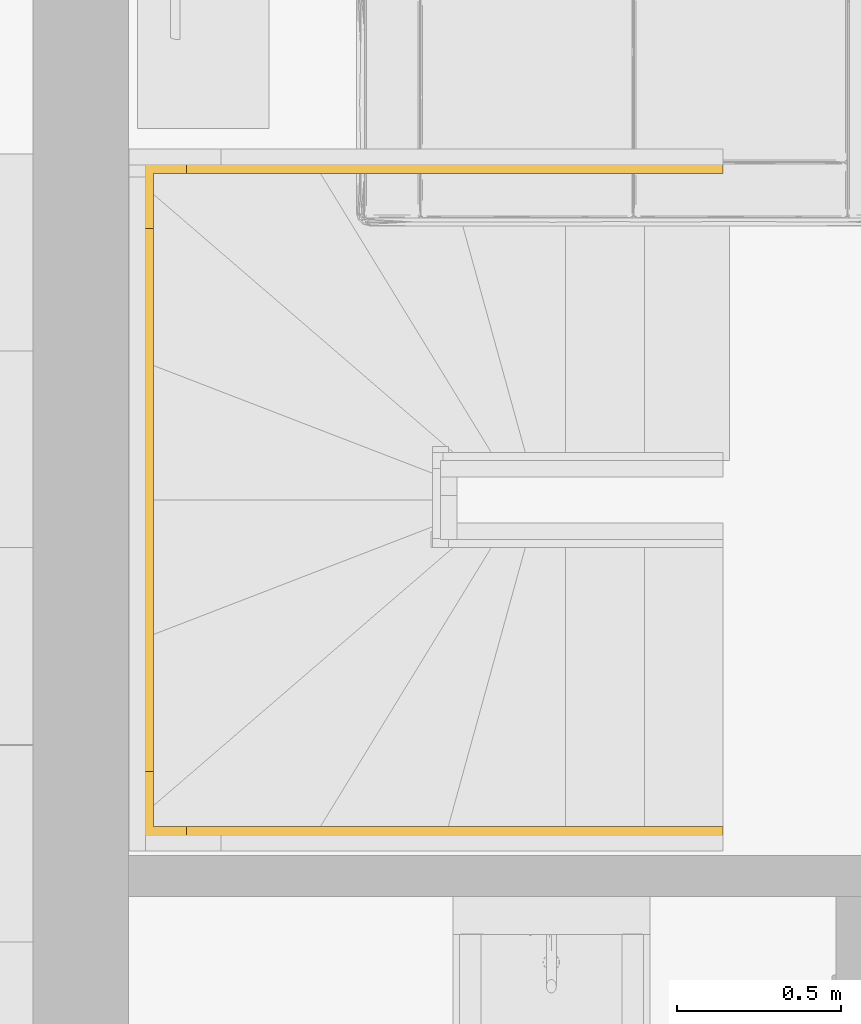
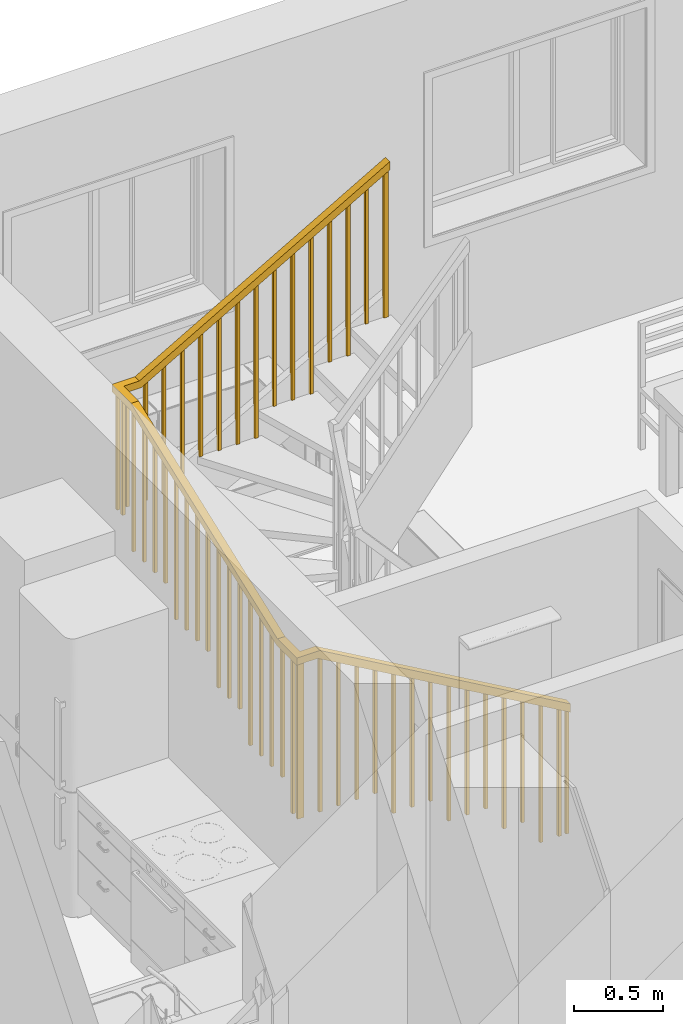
# One storey, part 28 of 65: 1 railing, 1 element without a shape of its own.
"""IFC2X3 building model written with IfcOpenShell, lengths in millimetres."""

from ifc_helpers import new_model, entity, si_unit, converted_unit, direction, frame, origin, place, context, subcontext, project, spatial, faceted_brep, material, type_object, element, aggregate, save


model = new_model("IFC2X3")

# Units and contexts
model_context = context("Model", 3, precision=0.01, world=origin(), true_north=direction((0.0, 1.0)))
body_context = subcontext(model_context, "Body", "Model", "MODEL_VIEW")
ifc_project = project(units=[si_unit("LENGTHUNIT", "METRE", prefix="MILLI"), si_unit("AREAUNIT", "SQUARE_METRE"), si_unit("VOLUMEUNIT", "CUBIC_METRE"), converted_unit("PLANEANGLEUNIT", "DEGREE", entity("IfcPlaneAngleMeasure", 0.017453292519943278), si_unit("PLANEANGLEUNIT", "RADIAN"), dimensions=[0, 0, 0, 0, 0, 0, 0])], contexts=[model_context])

# Site, building, storey
site_placement = place(None, origin())
site = spatial("IfcSite", under=ifc_project, at=site_placement, Name="Default", CompositionType="ELEMENT")
building_placement = place(site_placement, origin())
building = spatial("IfcBuilding", under=site, at=building_placement, CompositionType="ELEMENT")
storey_placement = place(building_placement, origin())
storey = spatial("IfcBuildingStorey", under=building, at=storey_placement, Name="Et. 1", CompositionType="ELEMENT", Elevation=0.0)

# Stair, railing
type_product = type_object("IfcTypeProduct", Name="Assembled Stair:Tretrapp - Åpne trinn m/ vanger")
stair_placement = place(storey_placement, origin())
stair = element("IfcStair", 1, at=stair_placement, inside=storey, type_object=type_product, Name="Assembled Stair:Stair", ShapeType="NOTDEFINED")
ifc_material = material(Name="Metall - Malt - MØRK GRÅ MATT")
railing_type = type_object("IfcRailingType", Name="Railing:900mm", PredefinedType="NOTDEFINED")
railing_placement = place(stair_placement, frame((22350.049458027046, 12256.845077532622, 178.73333333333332)))
railing = element("IfcRailing", 2, at=railing_placement, type_object=railing_type, material=ifc_material, Name="Railing:900mm", PredefinedType="NOTDEFINED", context=body_context, shape_type="Brep", body=[
    faceted_brep([(1755.0, 2054.199999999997, 3334.94499683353), (1755.0, 2074.1999999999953, 3334.94499683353), (1755.0, 2074.1999999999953, 2323.5333333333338), (1755.0, 2054.199999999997, 2323.5333333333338), (1775.0, 2074.1999999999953, 3346.4569725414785), (1775.0, 2074.1999999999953, 2323.5333333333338), (1775.0, 2054.199999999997, 3346.4569725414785), (1775.0, 2054.199999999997, 2323.5333333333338)], [[[0, 1, 2, 3]], [[1, 4, 5, 2]], [[4, 6, 7, 5]], [[3, 7, 6, 0]], [[0, 6, 4, 1]], [[2, 5, 7, 3]]]),
    faceted_brep([(1635.0, 2054.199999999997, 3265.8731425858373), (1635.0, 2074.1999999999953, 3265.8731425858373), (1635.0, 2074.1999999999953, 2323.5333333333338), (1635.0, 2054.199999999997, 2323.5333333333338), (1655.0, 2074.1999999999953, 3277.385118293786), (1655.0, 2074.1999999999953, 2323.5333333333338), (1655.0, 2054.199999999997, 3277.385118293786), (1655.0, 2054.199999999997, 2323.5333333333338)], [[[0, 1, 2, 3]], [[1, 4, 5, 2]], [[4, 6, 7, 5]], [[3, 7, 6, 0]], [[0, 6, 4, 1]], [[2, 5, 7, 3]]]),
    faceted_brep([(1515.0, 2054.199999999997, 3196.801288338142), (1515.0, 2074.1999999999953, 3196.8012883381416), (1515.0, 2074.1999999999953, 2144.8), (1515.0, 2054.199999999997, 2144.8000000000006), (1535.0, 2074.1999999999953, 3208.313264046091), (1535.0, 2074.1999999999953, 2144.8), (1535.0, 2054.199999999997, 3208.313264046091), (1535.0, 2054.199999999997, 2144.8)], [[[0, 1, 2, 3]], [[1, 4, 5, 2]], [[4, 6, 7, 5]], [[3, 7, 6, 0]], [[0, 6, 4, 1]], [[2, 5, 7, 3]]]),
    faceted_brep([(1395.0, 2054.199999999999, 3127.72943409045), (1395.0, 2074.199999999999, 3127.72943409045), (1395.0, 2074.199999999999, 2144.8000000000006), (1395.0, 2054.199999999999, 2144.8000000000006), (1415.0, 2074.199999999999, 3139.241409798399), (1415.0, 2074.199999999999, 2144.8000000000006), (1415.0, 2054.199999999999, 3139.241409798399), (1415.0, 2054.199999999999, 2144.8000000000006)], [[[0, 1, 2, 3]], [[1, 4, 5, 2]], [[4, 6, 7, 5]], [[3, 7, 6, 0]], [[0, 6, 4, 1]], [[2, 5, 7, 3]]]),
    faceted_brep([(1275.0, 2054.199999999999, 3058.6575798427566), (1275.0, 2074.199999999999, 3058.6575798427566), (1275.0, 2074.199999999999, 1966.0666666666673), (1275.0, 2054.199999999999, 1966.0666666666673), (1295.0, 2074.199999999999, 3070.169555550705), (1295.0, 2074.199999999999, 1966.0666666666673), (1295.0, 2054.199999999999, 3070.169555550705), (1295.0, 2054.199999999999, 1966.0666666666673)], [[[0, 1, 2, 3]], [[1, 4, 5, 2]], [[4, 6, 7, 5]], [[3, 7, 6, 0]], [[0, 6, 4, 1]], [[2, 5, 7, 3]]]),
    faceted_brep([(1155.0, 2054.199999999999, 2989.585725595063), (1155.0, 2074.199999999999, 2989.585725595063), (1155.0, 2074.199999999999, 1966.0666666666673), (1155.0, 2054.199999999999, 1966.0666666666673), (1175.0, 2074.199999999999, 3001.097701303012), (1175.0, 2074.199999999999, 1966.0666666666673), (1175.0, 2054.199999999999, 3001.097701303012), (1175.0, 2054.199999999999, 1966.0666666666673)], [[[0, 1, 2, 3]], [[1, 4, 5, 2]], [[4, 6, 7, 5]], [[3, 7, 6, 0]], [[0, 6, 4, 1]], [[2, 5, 7, 3]]]),
    faceted_brep([(1035.0, 2054.199999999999, 2920.5138713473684), (1035.0, 2074.199999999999, 2920.5138713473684), (1035.0, 2074.199999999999, 1966.0666666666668), (1035.0, 2054.199999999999, 1966.0666666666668), (1055.0, 2074.199999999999, 2932.0258470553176), (1055.0, 2074.199999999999, 1966.0666666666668), (1055.0, 2054.199999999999, 2932.0258470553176), (1055.0, 2054.199999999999, 1966.0666666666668)], [[[0, 1, 2, 3]], [[1, 4, 5, 2]], [[4, 6, 7, 5]], [[3, 7, 6, 0]], [[0, 6, 4, 1]], [[2, 5, 7, 3]]]),
    faceted_brep([(915.0, 2054.199999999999, 2851.4420170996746), (915.0, 2074.199999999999, 2851.4420170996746), (915.0, 2074.199999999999, 1787.3333333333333), (915.0, 2054.199999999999, 1787.3333333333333), (935.0, 2074.199999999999, 2862.953992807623), (935.0, 2074.199999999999, 1787.3333333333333), (935.0, 2054.199999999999, 2862.953992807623), (935.0, 2054.199999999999, 1787.3333333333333)], [[[0, 1, 2, 3]], [[1, 4, 5, 2]], [[4, 6, 7, 5]], [[3, 7, 6, 0]], [[0, 6, 4, 1]], [[2, 5, 7, 3]]]),
    faceted_brep([(795.0, 2054.2000000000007, 2782.3701628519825), (795.0, 2074.2000000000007, 2782.3701628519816), (795.0, 2074.2000000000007, 1787.333333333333), (795.0, 2054.2000000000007, 1787.333333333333), (815.0, 2074.2000000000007, 2793.882138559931), (815.0, 2074.2000000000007, 1787.333333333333), (815.0, 2054.2000000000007, 2793.882138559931), (815.0, 2054.2000000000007, 1787.333333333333)], [[[0, 1, 2, 3]], [[1, 4, 5, 2]], [[4, 6, 7, 5]], [[3, 7, 6, 0]], [[0, 6, 4, 1]], [[2, 5, 7, 3]]]),
    faceted_brep([(675.0, 2054.2000000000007, 2713.2983086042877), (675.0, 2074.2000000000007, 2713.2983086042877), (675.0, 2074.2000000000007, 1787.333333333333), (675.0, 2054.2000000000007, 1787.333333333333), (695.0, 2074.2000000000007, 2724.810284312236), (695.0, 2074.2000000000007, 1787.333333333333), (695.0, 2054.2000000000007, 2724.810284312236), (695.0, 2054.2000000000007, 1787.333333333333)], [[[0, 1, 2, 3]], [[1, 4, 5, 2]], [[4, 6, 7, 5]], [[3, 7, 6, 0]], [[0, 6, 4, 1]], [[2, 5, 7, 3]]]),
    faceted_brep([(555.0, 2054.2000000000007, 2644.226454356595), (555.0, 2074.2000000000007, 2644.2264543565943), (555.0, 2074.2000000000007, 1787.3333333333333), (555.0, 2054.2000000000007, 1787.3333333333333), (575.0, 2074.2000000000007, 2655.7384300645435), (575.0, 2074.2000000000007, 1787.3333333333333), (575.0, 2054.2000000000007, 2655.7384300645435), (575.0, 2054.2000000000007, 1787.3333333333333)], [[[0, 1, 2, 3]], [[1, 4, 5, 2]], [[4, 6, 7, 5]], [[3, 7, 6, 0]], [[0, 6, 4, 1]], [[2, 5, 7, 3]]]),
    faceted_brep([(435.0, 2054.2000000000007, 2575.1546001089), (435.0, 2074.2000000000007, 2575.1546001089), (435.0, 2074.2000000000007, 1608.5999999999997), (435.0, 2054.2000000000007, 1608.5999999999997), (455.0, 2074.2000000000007, 2586.666575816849), (455.0, 2074.2000000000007, 1608.5999999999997), (455.0, 2054.2000000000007, 2586.666575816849), (455.0, 2054.2000000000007, 1608.5999999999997)], [[[0, 1, 2, 3]], [[1, 4, 5, 2]], [[4, 6, 7, 5]], [[3, 7, 6, 0]], [[0, 6, 4, 1]], [[2, 5, 7, 3]]]),
    faceted_brep([(315.0, 2054.2000000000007, 2506.082745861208), (315.0, 2074.2000000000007, 2506.0827458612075), (315.0, 2074.2000000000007, 1608.5999999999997), (315.0, 2054.2000000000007, 1608.5999999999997), (335.0, 2074.2000000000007, 2517.5947215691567), (335.0, 2074.2000000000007, 1608.5999999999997), (335.0, 2054.2000000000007, 2517.5947215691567), (335.0, 2054.2000000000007, 1608.5999999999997)], [[[0, 1, 2, 3]], [[1, 4, 5, 2]], [[4, 6, 7, 5]], [[3, 7, 6, 0]], [[0, 6, 4, 1]], [[2, 5, 7, 3]]]),
    faceted_brep([(195.0, 2054.2000000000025, 2437.0108916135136), (195.0, 2074.2000000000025, 2437.0108916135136), (195.0, 2074.2000000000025, 1608.5999999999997), (195.0, 2054.2000000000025, 1608.5999999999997), (215.0, 2074.2000000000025, 2448.522867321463), (215.0, 2074.2000000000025, 1608.5999999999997), (215.0, 2054.2000000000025, 2448.522867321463), (215.0, 2054.2000000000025, 1608.5999999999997)], [[[0, 1, 2, 3]], [[1, 4, 5, 2]], [[4, 6, 7, 5]], [[3, 7, 6, 0]], [[0, 6, 4, 1]], [[2, 5, 7, 3]]]),
    faceted_brep([(75.0, 2054.2000000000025, 2411.399065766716), (75.0, 2074.2000000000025, 2411.399065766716), (75.0, 2074.2000000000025, 1608.5999999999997), (75.0, 2054.2000000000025, 1608.5999999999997), (95.0, 2074.2000000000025, 2411.399065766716), (95.0, 2074.2000000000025, 1608.5999999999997), (95.0, 2054.2000000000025, 2411.399065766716), (95.0, 2054.2000000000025, 1608.5999999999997)], [[[0, 1, 2, 3]], [[1, 4, 5, 2]], [[4, 6, 7, 5]], [[3, 7, 6, 0]], [[0, 6, 4, 1]], [[2, 5, 7, 3]]]),
    faceted_brep([(35.0, 1995.0, 2411.399065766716), (15.0, 1995.0, 2411.399065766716), (15.0, 1995.0, 1608.5999999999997), (35.0, 1995.0, 1608.5999999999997), (15.0, 2015.0, 2411.399065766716), (15.0, 2015.0, 1608.5999999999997), (35.0, 2015.0, 2411.399065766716), (35.0, 2015.0, 1608.5999999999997)], [[[0, 1, 2, 3]], [[1, 4, 5, 2]], [[4, 6, 7, 5]], [[3, 7, 6, 0]], [[0, 6, 4, 1]], [[2, 5, 7, 3]]]),
    faceted_brep([(35.0, 1875.0, 2411.399065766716), (15.0, 1875.0, 2411.399065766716), (15.0, 1875.0, 1429.866666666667), (35.0, 1875.0, 1429.866666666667), (15.0, 1895.0, 2411.399065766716), (15.0, 1895.0, 1429.866666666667), (35.0, 1895.0, 2411.399065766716), (35.0, 1895.0, 1429.866666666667)], [[[0, 1, 2, 3]], [[1, 4, 5, 2]], [[4, 6, 7, 5]], [[3, 7, 6, 0]], [[0, 6, 4, 1]], [[2, 5, 7, 3]]]),
    faceted_brep([(35.0, 1755.0, 2367.6418164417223), (15.0, 1755.0, 2367.6418164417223), (15.0, 1755.0, 1429.8666666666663), (35.0, 1755.0, 1429.8666666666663), (15.0, 1775.0, 2375.144870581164), (15.0, 1775.0, 1429.8666666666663), (35.0, 1775.0, 2375.144870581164), (35.0, 1775.0, 1429.8666666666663)], [[[0, 1, 2, 3]], [[1, 4, 5, 2]], [[4, 6, 7, 5]], [[3, 7, 6, 0]], [[0, 6, 4, 1]], [[2, 5, 7, 3]]]),
    faceted_brep([(35.0, 1635.0, 2322.6234916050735), (15.0, 1635.0, 2322.6234916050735), (15.0, 1635.0, 1429.866666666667), (35.0, 1635.0, 1429.866666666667), (15.0, 1655.0, 2330.126545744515), (15.0, 1655.0, 1429.866666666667), (35.0, 1655.0, 2330.126545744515), (35.0, 1655.0, 1429.866666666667)], [[[0, 1, 2, 3]], [[1, 4, 5, 2]], [[4, 6, 7, 5]], [[3, 7, 6, 0]], [[0, 6, 4, 1]], [[2, 5, 7, 3]]]),
    faceted_brep([(35.0, 1515.0, 2277.605166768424), (15.0, 1515.0, 2277.605166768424), (15.0, 1515.0, 1429.8666666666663), (35.0, 1515.0, 1429.8666666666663), (15.0, 1535.0, 2285.1082209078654), (15.0, 1535.0, 1429.8666666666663), (35.0, 1535.0, 2285.1082209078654), (35.0, 1535.0, 1429.8666666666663)], [[[0, 1, 2, 3]], [[1, 4, 5, 2]], [[4, 6, 7, 5]], [[3, 7, 6, 0]], [[0, 6, 4, 1]], [[2, 5, 7, 3]]]),
    faceted_brep([(35.0, 1395.0, 2232.5868419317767), (15.0, 1395.0, 2232.5868419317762), (15.0, 1395.0, 1251.1333333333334), (35.0, 1395.0, 1251.1333333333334), (15.0, 1415.0, 2240.089896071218), (15.0, 1415.0, 1251.1333333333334), (35.0, 1415.0, 2240.089896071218), (35.0, 1415.0, 1251.1333333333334)], [[[0, 1, 2, 3]], [[1, 4, 5, 2]], [[4, 6, 7, 5]], [[3, 7, 6, 0]], [[0, 6, 4, 1]], [[2, 5, 7, 3]]]),
    faceted_brep([(35.0, 1275.0, 2187.5685170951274), (15.0, 1275.0, 2187.5685170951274), (15.0, 1275.0, 1251.1333333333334), (35.0, 1275.0, 1251.1333333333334), (15.0, 1295.0, 2195.071571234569), (15.0, 1295.0, 1251.1333333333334), (35.0, 1295.0, 2195.071571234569), (35.0, 1295.0, 1251.1333333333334)], [[[0, 1, 2, 3]], [[1, 4, 5, 2]], [[4, 6, 7, 5]], [[3, 7, 6, 0]], [[0, 6, 4, 1]], [[2, 5, 7, 3]]]),
    faceted_brep([(35.0, 1155.0, 2142.5501922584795), (15.0, 1155.0, 2142.550192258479), (15.0, 1155.0, 1251.1333333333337), (35.0, 1155.0, 1251.1333333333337), (15.0, 1175.0, 2150.0532463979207), (15.0, 1175.0, 1251.1333333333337), (35.0, 1175.0, 2150.0532463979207), (35.0, 1175.0, 1251.1333333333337)], [[[0, 1, 2, 3]], [[1, 4, 5, 2]], [[4, 6, 7, 5]], [[3, 7, 6, 0]], [[0, 6, 4, 1]], [[2, 5, 7, 3]]]),
    faceted_brep([(35.0, 1035.0, 2097.53186742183), (15.0, 1035.0, 2097.53186742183), (15.0, 1035.0, 1251.1333333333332), (35.0, 1035.0, 1251.1333333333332), (15.0, 1055.0, 2105.034921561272), (15.0, 1055.0, 1251.1333333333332), (35.0, 1055.0, 2105.034921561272), (35.0, 1055.0, 1251.1333333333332)], [[[0, 1, 2, 3]], [[1, 4, 5, 2]], [[4, 6, 7, 5]], [[3, 7, 6, 0]], [[0, 6, 4, 1]], [[2, 5, 7, 3]]]),
    faceted_brep([(35.0, 915.0, 2052.5135425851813), (15.0, 915.0, 2052.5135425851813), (15.0, 915.0, 1072.3999999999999), (35.0, 915.0, 1072.3999999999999), (15.0, 935.0, 2060.0165967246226), (15.0, 935.0, 1072.3999999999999), (35.0, 935.0, 2060.0165967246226), (35.0, 935.0, 1072.3999999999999)], [[[0, 1, 2, 3]], [[1, 4, 5, 2]], [[4, 6, 7, 5]], [[3, 7, 6, 0]], [[0, 6, 4, 1]], [[2, 5, 7, 3]]]),
    faceted_brep([(35.0, 795.0, 2007.4952177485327), (15.0, 795.0, 2007.4952177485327), (15.0, 795.0, 1072.4), (35.0, 795.0, 1072.4), (15.0, 815.0, 2014.998271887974), (15.0, 815.0, 1072.4), (35.0, 815.0, 2014.998271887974), (35.0, 815.0, 1072.4)], [[[0, 1, 2, 3]], [[1, 4, 5, 2]], [[4, 6, 7, 5]], [[3, 7, 6, 0]], [[0, 6, 4, 1]], [[2, 5, 7, 3]]]),
    faceted_brep([(35.0, 675.0, 1962.4768929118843), (15.0, 675.0, 1962.4768929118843), (15.0, 675.0, 1072.4), (35.0, 675.0, 1072.4), (15.0, 695.0, 1969.9799470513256), (15.0, 695.0, 1072.4), (35.0, 695.0, 1969.9799470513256), (35.0, 695.0, 1072.4)], [[[0, 1, 2, 3]], [[1, 4, 5, 2]], [[4, 6, 7, 5]], [[3, 7, 6, 0]], [[0, 6, 4, 1]], [[2, 5, 7, 3]]]),
    faceted_brep([(35.0, 555.0, 1917.4585680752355), (15.0, 555.0, 1917.4585680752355), (15.0, 555.0, 893.6666666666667), (35.0, 555.0, 893.6666666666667), (15.0, 575.0, 1924.9616222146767), (15.0, 575.0, 893.6666666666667), (35.0, 575.0, 1924.9616222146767), (35.0, 575.0, 893.6666666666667)], [[[0, 1, 2, 3]], [[1, 4, 5, 2]], [[4, 6, 7, 5]], [[3, 7, 6, 0]], [[0, 6, 4, 1]], [[2, 5, 7, 3]]]),
    faceted_brep([(35.0, 435.0, 1872.4402432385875), (15.0, 435.0, 1872.4402432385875), (15.0, 435.0, 893.666666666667), (35.0, 435.0, 893.666666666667), (15.0, 455.0, 1879.9432973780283), (15.0, 455.0, 893.666666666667), (35.0, 455.0, 1879.9432973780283), (35.0, 455.0, 893.666666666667)], [[[0, 1, 2, 3]], [[1, 4, 5, 2]], [[4, 6, 7, 5]], [[3, 7, 6, 0]], [[0, 6, 4, 1]], [[2, 5, 7, 3]]]),
    faceted_brep([(35.0, 315.0, 1827.4219184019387), (15.0, 315.0, 1827.4219184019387), (15.0, 315.0, 893.6666666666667), (35.0, 315.0, 893.6666666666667), (15.0, 335.0, 1834.92497254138), (15.0, 335.0, 893.6666666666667), (35.0, 335.0, 1834.92497254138), (35.0, 335.0, 893.6666666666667)], [[[0, 1, 2, 3]], [[1, 4, 5, 2]], [[4, 6, 7, 5]], [[3, 7, 6, 0]], [[0, 6, 4, 1]], [[2, 5, 7, 3]]]),
    faceted_brep([(35.0, 195.0, 1790.8676010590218), (15.0, 195.0, 1790.867601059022), (15.0, 195.0, 893.6666666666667), (35.0, 195.0, 893.6666666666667), (15.0, 215.0, 1790.867601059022), (15.0, 215.0, 893.6666666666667), (35.0, 215.0, 1790.867601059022), (35.0, 215.0, 893.6666666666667)], [[[0, 1, 2, 3]], [[1, 4, 5, 2]], [[4, 6, 7, 5]], [[3, 7, 6, 0]], [[0, 6, 4, 1]], [[2, 5, 7, 3]]]),
    faceted_brep([(35.0, 75.0, 1790.8676010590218), (15.0, 75.0, 1790.8676010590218), (15.0, 75.0, 714.9333333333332), (35.0, 75.0, 714.9333333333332), (15.0, 95.0, 1790.8676010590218), (15.0, 95.0, 714.9333333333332), (35.0, 95.0, 1790.8676010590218), (35.0, 95.0, 714.9333333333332)], [[[0, 1, 2, 3]], [[1, 4, 5, 2]], [[4, 6, 7, 5]], [[3, 7, 6, 0]], [[0, 6, 4, 1]], [[2, 5, 7, 3]]]),
    faceted_brep([(55.093305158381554, 35.0, 1790.8676010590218), (55.093305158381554, 15.0, 1790.8676010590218), (55.093305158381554, 15.0, 714.9333333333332), (55.093305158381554, 35.0, 714.9333333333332), (35.093305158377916, 15.0, 1790.8676010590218), (35.093305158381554, 15.0, 714.9333333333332), (35.093305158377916, 35.0, 1790.8676010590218), (35.093305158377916, 35.0, 714.9333333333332)], [[[0, 1, 2, 3]], [[1, 4, 5, 2]], [[4, 6, 7, 5]], [[3, 7, 6, 0]], [[0, 6, 4, 1]], [[2, 5, 7, 3]]]),
    faceted_brep([(175.09330515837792, 35.0, 1776.7140445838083), (175.09330515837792, 15.0, 1776.7140445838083), (175.09330515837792, 15.0, 714.9333333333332), (175.09330515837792, 35.0, 714.9333333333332), (155.09330515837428, 15.0, 1788.2260202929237), (155.09330515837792, 15.0, 714.9333333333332), (155.09330515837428, 35.0, 1788.2260202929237), (155.09330515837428, 35.0, 714.9333333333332)], [[[0, 1, 2, 3]], [[1, 4, 5, 2]], [[4, 6, 7, 5]], [[3, 7, 6, 0]], [[0, 6, 4, 1]], [[2, 5, 7, 3]]]),
    faceted_brep([(295.0933051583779, 35.0, 1707.642190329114), (295.0933051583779, 15.0, 1707.642190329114), (295.0933051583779, 15.0, 714.9333333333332), (295.0933051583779, 35.0, 714.9333333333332), (275.0933051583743, 15.0, 1719.15416603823), (275.0933051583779, 15.0, 714.9333333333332), (275.0933051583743, 35.0, 1719.15416603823), (275.0933051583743, 35.0, 714.9333333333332)], [[[0, 1, 2, 3]], [[1, 4, 5, 2]], [[4, 6, 7, 5]], [[3, 7, 6, 0]], [[0, 6, 4, 1]], [[2, 5, 7, 3]]]),
    faceted_brep([(415.09330515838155, 35.0, 1638.5703360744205), (415.09330515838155, 15.0, 1638.5703360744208), (415.09330515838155, 15.0, 714.9333333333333), (415.09330515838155, 35.0, 714.9333333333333), (395.0933051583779, 15.0, 1650.0823117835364), (395.09330515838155, 15.0, 714.9333333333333), (395.0933051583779, 35.0, 1650.0823117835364), (395.0933051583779, 35.0, 714.9333333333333)], [[[0, 1, 2, 3]], [[1, 4, 5, 2]], [[4, 6, 7, 5]], [[3, 7, 6, 0]], [[0, 6, 4, 1]], [[2, 5, 7, 3]]]),
    faceted_brep([(535.0933051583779, 35.0, 1569.4984818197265), (535.0933051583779, 15.0, 1569.4984818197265), (535.0933051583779, 15.0, 714.9333333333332), (535.0933051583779, 35.0, 714.9333333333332), (515.0933051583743, 15.0, 1581.010457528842), (515.0933051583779, 15.0, 714.9333333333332), (515.0933051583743, 35.0, 1581.010457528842), (515.0933051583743, 35.0, 714.9333333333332)], [[[0, 1, 2, 3]], [[1, 4, 5, 2]], [[4, 6, 7, 5]], [[3, 7, 6, 0]], [[0, 6, 4, 1]], [[2, 5, 7, 3]]]),
    faceted_brep([(655.0933051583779, 35.0, 1500.4266275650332), (655.0933051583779, 15.0, 1500.426627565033), (655.0933051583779, 15.0, 536.1999999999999), (655.0933051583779, 35.0, 536.1999999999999), (635.0933051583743, 15.0, 1511.9386032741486), (635.0933051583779, 15.0, 536.1999999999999), (635.0933051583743, 35.0, 1511.9386032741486), (635.0933051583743, 35.0, 536.1999999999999)], [[[0, 1, 2, 3]], [[1, 4, 5, 2]], [[4, 6, 7, 5]], [[3, 7, 6, 0]], [[0, 6, 4, 1]], [[2, 5, 7, 3]]]),
    faceted_brep([(775.0933051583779, 35.0, 1431.3547733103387), (775.0933051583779, 15.0, 1431.3547733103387), (775.0933051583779, 15.0, 536.2), (775.0933051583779, 35.0, 536.2), (755.0933051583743, 15.0, 1442.8667490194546), (755.0933051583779, 15.0, 536.2), (755.0933051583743, 35.0, 1442.8667490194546), (755.0933051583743, 35.0, 536.2)], [[[0, 1, 2, 3]], [[1, 4, 5, 2]], [[4, 6, 7, 5]], [[3, 7, 6, 0]], [[0, 6, 4, 1]], [[2, 5, 7, 3]]]),
    faceted_brep([(895.0933051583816, 35.0, 1362.2829190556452), (895.0933051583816, 15.0, 1362.282919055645), (895.0933051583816, 15.0, 536.1999999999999), (895.0933051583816, 35.0, 536.1999999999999), (875.0933051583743, 15.0, 1373.7948947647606), (875.0933051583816, 15.0, 536.1999999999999), (875.0933051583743, 35.0, 1373.7948947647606), (875.0933051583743, 35.0, 536.1999999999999)], [[[0, 1, 2, 3]], [[1, 4, 5, 2]], [[4, 6, 7, 5]], [[3, 7, 6, 0]], [[0, 6, 4, 1]], [[2, 5, 7, 3]]]),
    faceted_brep([(1015.0933051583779, 35.0, 1293.2110648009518), (1015.0933051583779, 15.0, 1293.2110648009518), (1015.0933051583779, 15.0, 357.4666666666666), (1015.0933051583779, 35.0, 357.4666666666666), (995.0933051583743, 15.0, 1304.7230405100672), (995.0933051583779, 15.0, 357.4666666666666), (995.0933051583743, 35.0, 1304.7230405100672), (995.0933051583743, 35.0, 357.4666666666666)], [[[0, 1, 2, 3]], [[1, 4, 5, 2]], [[4, 6, 7, 5]], [[3, 7, 6, 0]], [[0, 6, 4, 1]], [[2, 5, 7, 3]]]),
    faceted_brep([(1135.093305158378, 35.0, 1224.1392105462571), (1135.093305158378, 15.0, 1224.139210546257), (1135.093305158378, 15.0, 357.4666666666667), (1135.093305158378, 35.0, 357.4666666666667), (1115.0933051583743, 15.0, 1235.6511862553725), (1115.093305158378, 15.0, 357.4666666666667), (1115.0933051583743, 35.0, 1235.6511862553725), (1115.0933051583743, 35.0, 357.4666666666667)], [[[0, 1, 2, 3]], [[1, 4, 5, 2]], [[4, 6, 7, 5]], [[3, 7, 6, 0]], [[0, 6, 4, 1]], [[2, 5, 7, 3]]]),
    faceted_brep([(1255.0933051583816, 35.0, 1155.0673562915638), (1255.0933051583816, 15.0, 1155.067356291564), (1255.0933051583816, 15.0, 357.4666666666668), (1255.0933051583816, 35.0, 357.4666666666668), (1235.093305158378, 15.0, 1166.5793320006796), (1235.0933051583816, 15.0, 357.4666666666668), (1235.093305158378, 35.0, 1166.5793320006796), (1235.093305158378, 35.0, 357.4666666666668)], [[[0, 1, 2, 3]], [[1, 4, 5, 2]], [[4, 6, 7, 5]], [[3, 7, 6, 0]], [[0, 6, 4, 1]], [[2, 5, 7, 3]]]),
    faceted_brep([(1375.093305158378, 35.0, 1085.99550203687), (1375.093305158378, 15.0, 1085.99550203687), (1375.093305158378, 15.0, 178.73333333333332), (1375.093305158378, 35.0, 178.73333333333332), (1355.0933051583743, 15.0, 1097.5074777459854), (1355.093305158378, 15.0, 178.73333333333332), (1355.0933051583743, 35.0, 1097.5074777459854), (1355.0933051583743, 35.0, 178.73333333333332)], [[[0, 1, 2, 3]], [[1, 4, 5, 2]], [[4, 6, 7, 5]], [[3, 7, 6, 0]], [[0, 6, 4, 1]], [[2, 5, 7, 3]]]),
    faceted_brep([(1495.093305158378, 35.0, 1016.9236477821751), (1495.093305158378, 15.0, 1016.9236477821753), (1495.093305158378, 15.0, 178.73333333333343), (1495.093305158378, 35.0, 178.73333333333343), (1475.0933051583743, 15.0, 1028.435623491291), (1475.093305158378, 15.0, 178.73333333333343), (1475.0933051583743, 35.0, 1028.435623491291), (1475.0933051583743, 35.0, 178.73333333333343)], [[[0, 1, 2, 3]], [[1, 4, 5, 2]], [[4, 6, 7, 5]], [[3, 7, 6, 0]], [[0, 6, 4, 1]], [[2, 5, 7, 3]]]),
    faceted_brep([(1615.0933051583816, 35.0, 947.8517935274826), (1615.0933051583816, 15.0, 947.8517935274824), (1615.0933051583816, 15.0, 0.0), (1615.0933051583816, 35.0, 0.0), (1595.093305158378, 15.0, 959.363769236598), (1595.0933051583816, 15.0, 0.0), (1595.093305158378, 35.0, 959.363769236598), (1595.093305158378, 35.0, 0.0)], [[[0, 1, 2, 3]], [[1, 4, 5, 2]], [[4, 6, 7, 5]], [[3, 7, 6, 0]], [[0, 6, 4, 1]], [[2, 5, 7, 3]]]),
    faceted_brep([(1735.093305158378, 35.0, 878.7799392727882), (1735.093305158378, 15.0, 878.7799392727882), (1735.093305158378, 15.0, 0.0), (1735.093305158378, 35.0, 0.0), (1715.0933051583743, 15.0, 890.2919149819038), (1715.0933051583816, 15.0, 0.0), (1715.0933051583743, 35.0, 890.2919149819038), (1715.0933051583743, 35.0, 0.0)], [[[0, 1, 2, 3]], [[1, 4, 5, 2]], [[4, 6, 7, 5]], [[3, 7, 6, 0]], [[0, 6, 4, 1]], [[2, 5, 7, 3]]]),
    faceted_brep([(35.0, 2054.2000000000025, 2411.399065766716), (15.0, 2054.2000000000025, 2411.399065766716), (15.0, 2054.2000000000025, 1608.5999999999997), (35.0, 2054.2000000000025, 1608.5999999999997), (15.0, 2074.2000000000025, 2411.399065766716), (15.0, 2074.2000000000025, 1608.5999999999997), (35.0, 2074.2000000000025, 2411.399065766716), (35.0, 2074.2000000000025, 1608.5999999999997)], [[[0, 1, 2, 3]], [[1, 4, 5, 2]], [[4, 6, 7, 5]], [[3, 7, 6, 0]], [[0, 6, 4, 1]], [[2, 5, 7, 3]]]),
    faceted_brep([(35.0, 35.0, 1790.8676010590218), (35.0, 15.0, 1790.8676010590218), (35.0, 15.0, 714.9333333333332), (35.0, 35.0, 714.9333333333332), (15.0, 15.0, 1790.8676010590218), (15.0, 15.0, 714.9333333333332), (15.0, 35.0, 1790.8676010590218), (15.0, 35.0, 714.9333333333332)], [[[0, 1, 2, 3]], [[1, 4, 5, 2]], [[4, 6, 7, 5]], [[3, 7, 6, 0]], [[0, 6, 4, 1]], [[2, 5, 7, 3]]]),
    faceted_brep([(1765.093305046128, 2054.199999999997, 3340.7546909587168), (1765.093305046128, 2074.1999999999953, 3340.7546909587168), (1765.093305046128, 2074.1999999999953, 2323.5333333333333), (1765.093305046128, 2054.199999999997, 2323.5333333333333), (1785.0933050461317, 2074.1999999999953, 3352.266666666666), (1785.093305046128, 2074.1999999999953, 2323.5333333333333), (1785.0933050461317, 2054.199999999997, 3352.266666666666), (1785.0933050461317, 2054.199999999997, 2323.5333333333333)], [[[0, 1, 2, 3]], [[1, 4, 5, 2]], [[4, 6, 7, 5]], [[3, 7, 6, 0]], [[0, 6, 4, 1]], [[2, 5, 7, 3]]]),
    faceted_brep([(1785.093305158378, 35.0, 850.0), (1785.093305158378, 15.0, 850.0), (1785.093305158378, 15.0, 0.0), (1785.093305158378, 35.0, 0.0), (1765.0933051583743, 15.0, 861.5119757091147), (1765.093305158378, 15.0, 0.0), (1765.0933051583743, 35.0, 861.5119757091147), (1765.0933051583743, 35.0, 0.0)], [[[0, 1, 2, 3]], [[1, 4, 5, 2]], [[4, 6, 7, 5]], [[3, 7, 6, 0]], [[0, 6, 4, 1]], [[2, 5, 7, 3]]]),
    faceted_brep([(1785.093305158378, 0.0, 900.0), (1785.093305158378, 0.0, 842.308710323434), (1785.093305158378, 50.0, 842.3087103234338), (1785.093305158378, 50.0, 900.0), (150.50403076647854, 0.0, 1840.8676010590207), (137.14178979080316, 0.0, 1790.8676010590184), (137.14178979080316, 50.0, 1790.8676010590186), (150.50403076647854, 50.0, 1840.8676010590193), (50.0, 0.0, 1840.8676010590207), (50.0, 50.0, 1840.8676010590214), (50.0, 50.0, 1790.8676010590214), (50.0, 0.0, 1790.8676010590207)], [[[0, 1, 2, 3]], [[1, 0, 4, 5]], [[2, 1, 5, 6]], [[3, 2, 6, 7]], [[0, 3, 7, 4]], [[8, 9, 10, 11]], [[5, 4, 8, 11]], [[6, 5, 11, 10]], [[7, 6, 10, 9]], [[4, 7, 9, 8]]]),
    faceted_brep([(0.0, 0.0, 1840.8676010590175), (0.0, 0.0, 1790.8676010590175), (50.0, 0.0, 1790.8676010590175), (50.0, 0.0, 1840.8676010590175), (0.0, 217.56149918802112, 1840.8676010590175), (0.0, 226.6316852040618, 1790.8676010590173), (50.0, 226.6316852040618, 1790.8676010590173), (50.0, 217.56149918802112, 1840.8676010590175), (0.0, 1871.638500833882, 2461.3990657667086), (0.0, 1880.7086868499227, 2411.399065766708), (50.0, 1880.7086868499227, 2411.399065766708), (50.0, 1871.638500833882, 2461.399065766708), (0.0, 2039.2000000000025, 2461.3990657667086), (50.0, 2039.2000000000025, 2461.3990657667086), (50.0, 2039.2000000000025, 2411.3990657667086), (0.0, 2039.2000000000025, 2411.3990657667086)], [[[0, 1, 2, 3]], [[1, 0, 4, 5]], [[2, 1, 5, 6]], [[3, 2, 6, 7]], [[0, 3, 7, 4]], [[5, 4, 8, 9]], [[6, 5, 9, 10]], [[7, 6, 10, 11]], [[4, 7, 11, 8]], [[12, 13, 14, 15]], [[9, 8, 12, 15]], [[10, 9, 15, 14]], [[11, 10, 14, 13]], [[8, 11, 13, 12]]]),
    faceted_brep([(0.0, 2089.2000000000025, 2461.399065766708), (0.0, 2089.2000000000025, 2411.399065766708), (0.0, 2039.2000000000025, 2411.399065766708), (0.0, 2039.2000000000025, 2461.399065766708), (150.5040307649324, 2089.2000000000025, 2461.3990657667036), (163.86627173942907, 2089.2000000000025, 2411.3990657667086), (163.86627173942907, 2039.2000000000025, 2411.3990657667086), (150.5040307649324, 2039.2000000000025, 2461.399065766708), (1785.093305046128, 2089.199999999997, 3402.266666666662), (1785.093305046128, 2039.199999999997, 3402.266666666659), (1785.093305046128, 2039.199999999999, 3344.575376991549), (1785.093305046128, 2089.199999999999, 3344.5753769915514)], [[[0, 1, 2, 3]], [[1, 0, 4, 5]], [[2, 1, 5, 6]], [[3, 2, 6, 7]], [[0, 3, 7, 4]], [[8, 9, 10, 11]], [[5, 4, 8, 11]], [[6, 5, 11, 10]], [[7, 6, 10, 9]], [[4, 7, 9, 8]]]),
])
aggregate(stair, [railing])

save(model, "model.ifc")
